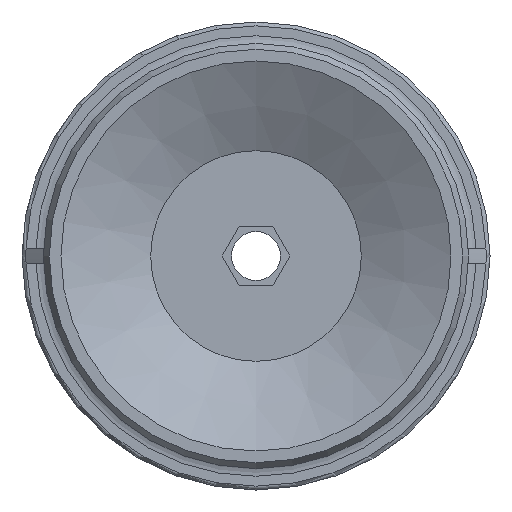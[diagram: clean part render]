
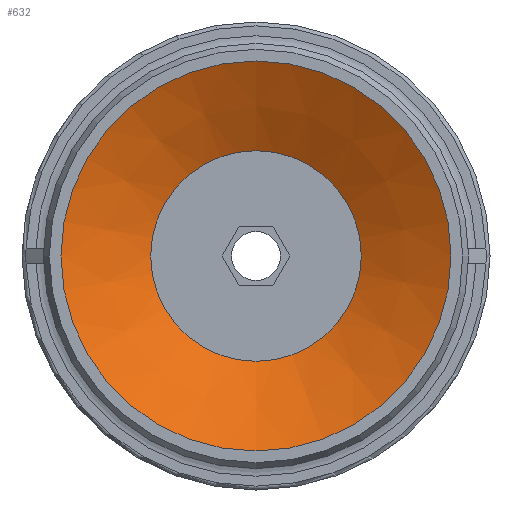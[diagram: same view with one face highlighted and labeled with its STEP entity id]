
A CAD part, front view. The second image highlights one B-rep face of the part: STEP entity #632.
In plain terms, the highlighted conical face has half-angle 61.631 degrees and reference radius 5.4 mm.
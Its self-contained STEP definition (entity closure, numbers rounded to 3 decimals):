
#632=ADVANCED_FACE('',(#941,#942),#943,.F.);
#941=FACE_BOUND('',#1292,.T.);
#942=FACE_OUTER_BOUND('',#1293,.T.);
#943=CONICAL_SURFACE('',#1294,5.4,1.076);
#1292=EDGE_LOOP('',(#2177));
#1293=EDGE_LOOP('',(#2178));
#1294=AXIS2_PLACEMENT_3D('',#2179,#2180,#2181);
#2177=ORIENTED_EDGE('',*,*,#2574,.F.);
#2178=ORIENTED_EDGE('',*,*,#2534,.T.);
#2179=CARTESIAN_POINT('',(0.0,2.484,0.0));
#2180=DIRECTION('',(-0.0,-1.0,0.));
#2181=DIRECTION('',(0.0,0.,-1.0));
#2534=EDGE_CURVE('',#2938,#2938,#2939,.T.);
#2574=EDGE_CURVE('',#3010,#3010,#3011,.T.);
#2938=VERTEX_POINT('',#3826);
#2939=CIRCLE('',#3827,10.0);
#3010=VERTEX_POINT('',#3910);
#3011=CIRCLE('',#3911,5.4);
#3826=CARTESIAN_POINT('',(0.0,0.,-10.0));
#3827=AXIS2_PLACEMENT_3D('',#4258,#4259,#4260);
#3910=CARTESIAN_POINT('',(0.0,2.484,-5.4));
#3911=AXIS2_PLACEMENT_3D('',#4354,#4355,#4356);
#4258=CARTESIAN_POINT('',(0.0,0.0,0.0));
#4259=DIRECTION('',(0.0,-1.0,0.));
#4260=DIRECTION('',(0.0,0.,-1.0));
#4354=CARTESIAN_POINT('',(0.0,2.484,0.0));
#4355=DIRECTION('',(0.0,-1.0,0.));
#4356=DIRECTION('',(0.0,0.,-1.0));
